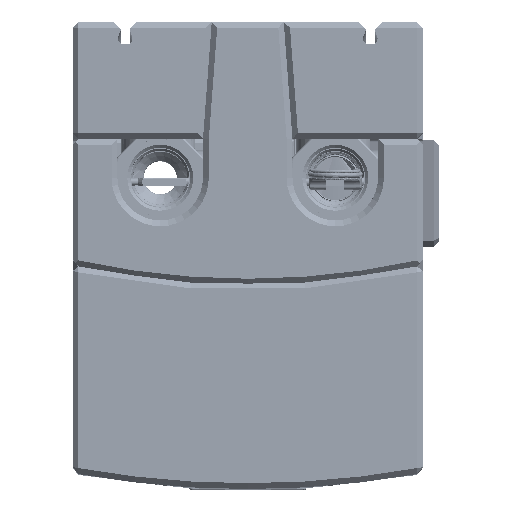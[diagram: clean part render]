
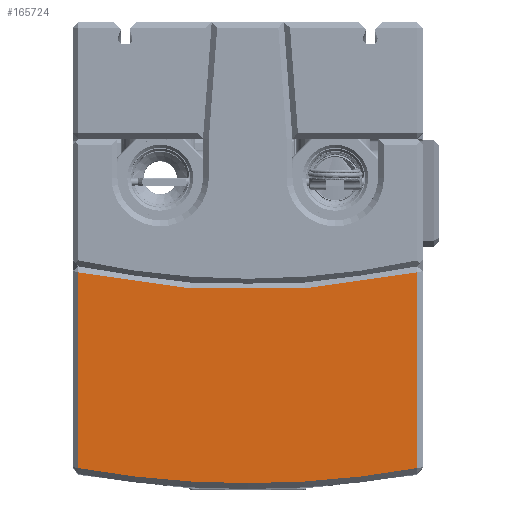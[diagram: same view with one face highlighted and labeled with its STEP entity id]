
A CAD part, top view. The second image highlights one B-rep face of the part: STEP entity #165724.
In plain terms, the highlighted planar face has unit normal (0, 0, 1) as drawn and (0, -1, 0) by its records, which use the part's own axes.
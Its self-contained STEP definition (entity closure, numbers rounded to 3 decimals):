
#14751 = DIRECTION ( 'NONE',  ( 0., 0., -1. ) ) ;
#18174 = ORIENTED_EDGE ( 'NONE', *, *, #157557, .F. ) ;
#22781 = CIRCLE ( 'NONE', #168733, 413. ) ;
#40080 = DIRECTION ( 'NONE',  ( 1., 0., 0. ) ) ;
#49794 = EDGE_CURVE ( 'NONE', #61915, #123646, #316792, .T. ) ;
#49825 = LINE ( 'NONE', #52490, #61664 ) ;
#52490 = CARTESIAN_POINT ( 'NONE',  ( -87., -280., 0. ) ) ;
#53251 = EDGE_CURVE ( 'NONE', #223651, #229914, #178726, .T. ) ;
#53807 = CARTESIAN_POINT ( 'NONE',  ( 87., -280., 149.248 ) ) ;
#61664 = VECTOR ( 'NONE', #14751, 1000. ) ;
#61915 = VERTEX_POINT ( 'NONE', #70876 ) ;
#63585 = DIRECTION ( 'NONE',  ( 0., 0., -1. ) ) ;
#69928 = DIRECTION ( 'NONE',  ( 0., 1., 0. ) ) ;
#70876 = CARTESIAN_POINT ( 'NONE',  ( -87., -280., 149.248 ) ) ;
#99050 = AXIS2_PLACEMENT_3D ( 'NONE', #312248, #516566, #148407 ) ;
#104403 = ORIENTED_EDGE ( 'NONE', *, *, #53251, .T. ) ;
#110106 = CARTESIAN_POINT ( 'NONE',  ( 0., -280., 157. ) ) ;
#123646 = VERTEX_POINT ( 'NONE', #110106 ) ;
#137781 = CARTESIAN_POINT ( 'NONE',  ( 87., -280., 48.632 ) ) ;
#144318 = CARTESIAN_POINT ( 'NONE',  ( 0., -280., -335.101 ) ) ;
#148407 = DIRECTION ( 'NONE',  ( 0., 0., -1. ) ) ;
#153683 = FACE_OUTER_BOUND ( 'NONE', #493313, .T. ) ;
#157557 = EDGE_CURVE ( 'NONE', #123646, #229914, #482393, .T. ) ;
#165724 = ADVANCED_FACE ( 'NONE', ( #153683 ), #279808, .T. ) ;
#168733 = AXIS2_PLACEMENT_3D ( 'NONE', #403063, #69928, #40080 ) ;
#170809 = CARTESIAN_POINT ( 'NONE',  ( 87., -280., 0. ) ) ;
#178109 = DIRECTION ( 'NONE',  ( 0., 0., -1. ) ) ;
#178726 = LINE ( 'NONE', #170809, #282169 ) ;
#223651 = VERTEX_POINT ( 'NONE', #137781 ) ;
#229914 = VERTEX_POINT ( 'NONE', #53807 ) ;
#255352 = ORIENTED_EDGE ( 'NONE', *, *, #49794, .F. ) ;
#279808 = PLANE ( 'NONE',  #99050 ) ;
#282169 = VECTOR ( 'NONE', #296968, 1000. ) ;
#292921 = VERTEX_POINT ( 'NONE', #377601 ) ;
#296968 = DIRECTION ( 'NONE',  ( 0., 0., 1. ) ) ;
#298239 = EDGE_CURVE ( 'NONE', #61915, #292921, #49825, .T. ) ;
#312248 = CARTESIAN_POINT ( 'NONE',  ( 90., -280., 0. ) ) ;
#316792 = CIRCLE ( 'NONE', #522834, 492.101 ) ;
#349893 = DIRECTION ( 'NONE',  ( 0., 1., 0. ) ) ;
#352615 = ORIENTED_EDGE ( 'NONE', *, *, #298239, .T. ) ;
#377601 = CARTESIAN_POINT ( 'NONE',  ( -87., -280., 48.632 ) ) ;
#391491 = DIRECTION ( 'NONE',  ( 0., 1., 0. ) ) ;
#403063 = CARTESIAN_POINT ( 'NONE',  ( 0., -280., -355.101 ) ) ;
#422634 = CARTESIAN_POINT ( 'NONE',  ( 0., -280., -335.101 ) ) ;
#436684 = ORIENTED_EDGE ( 'NONE', *, *, #496322, .T. ) ;
#482393 = CIRCLE ( 'NONE', #516960, 492.101 ) ;
#493313 = EDGE_LOOP ( 'NONE', ( #436684, #104403, #18174, #255352, #352615 ) ) ;
#496322 = EDGE_CURVE ( 'NONE', #292921, #223651, #22781, .T. ) ;
#516566 = DIRECTION ( 'NONE',  ( 0., -1., 0. ) ) ;
#516960 = AXIS2_PLACEMENT_3D ( 'NONE', #422634, #349893, #178109 ) ;
#522834 = AXIS2_PLACEMENT_3D ( 'NONE', #144318, #391491, #63585 ) ;
